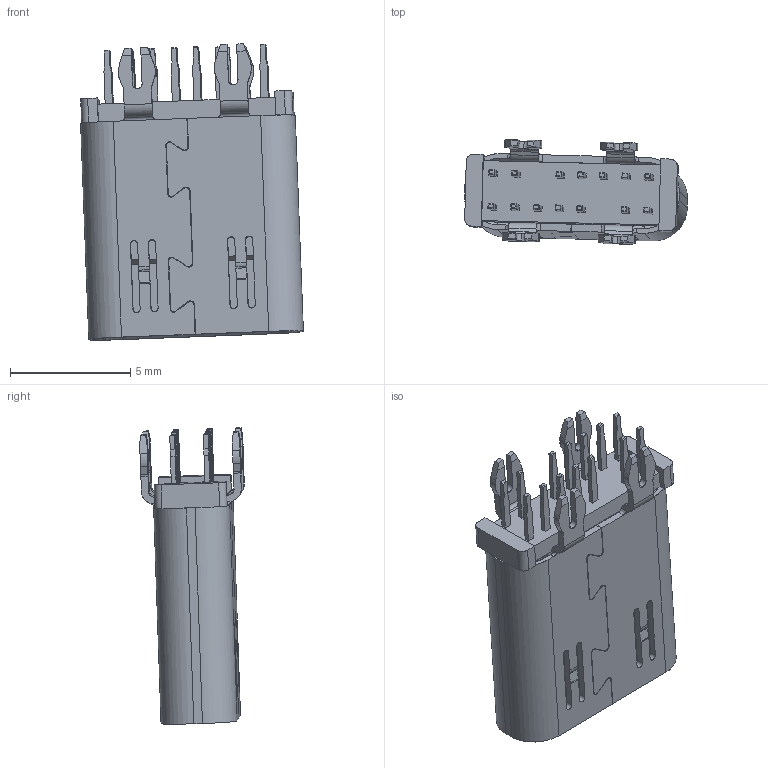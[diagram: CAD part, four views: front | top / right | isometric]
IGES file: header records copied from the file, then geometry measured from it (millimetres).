
Start section: SolidWorks IGES file using analytic representation for surfaces
Global section: file name: Z:\规格书系列\A品赞TYPE C\母座系列\GT-USB-7035\GT-USB-7035C\GT-USB-7035C.IGS; native system: SolidWorks 2021; preprocessor: SolidWorks 2021; author: Lenovo; date: 230304.171159; units: millimetre
Bounding box: 9.28 x 4.35 x 12.34 mm (x, y, z)
Surface area: 693.4 mm2 (no closed solid volume)
Topology: 0 solids, 0 shells, 773 faces, 5640 edges, 5640 vertices
Faces by surface type: bspline 773
